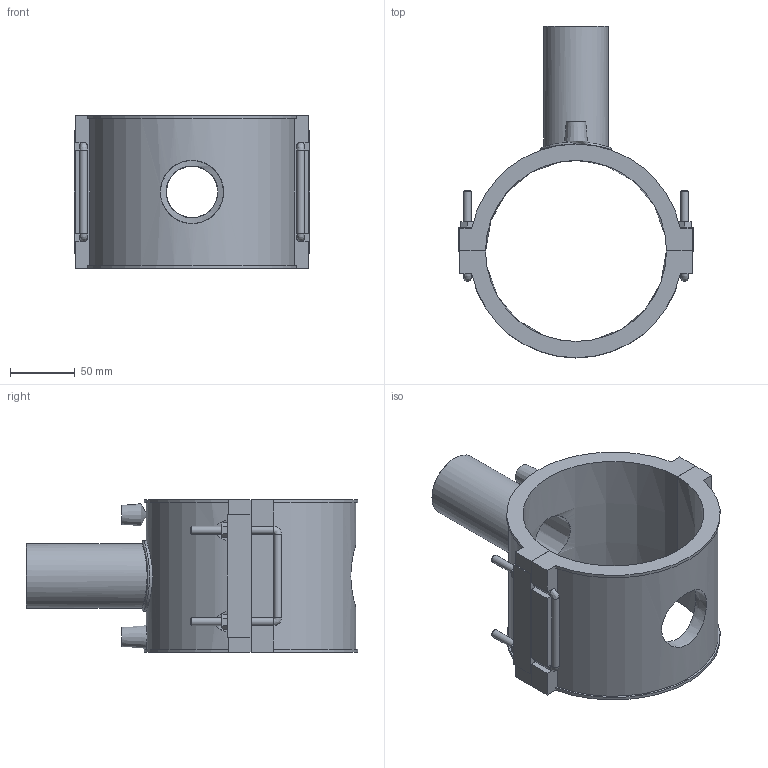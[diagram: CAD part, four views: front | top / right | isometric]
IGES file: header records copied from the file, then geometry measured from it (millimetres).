
Global section: file name: 495804140050.ipt; native system: Autodesk Inventor 2015; preprocessor: unknown; author: KIM; date: 20180426.120846; units: millimetre
Bounding box: 182 x 256.62 x 118 mm (x, y, z)
Volume: 749473.8 mm3; surface area: 174164 mm2
Topology: 2 solids, 2 shells, 133 faces, 340 edges, 214 vertices
Faces by surface type: plane 85, cylinder 22, revolution 10, bspline 9, cone 7
Full cylindrical faces by diameter (mm): 4 x2, 6 x10, 50 x1, 55 x1
